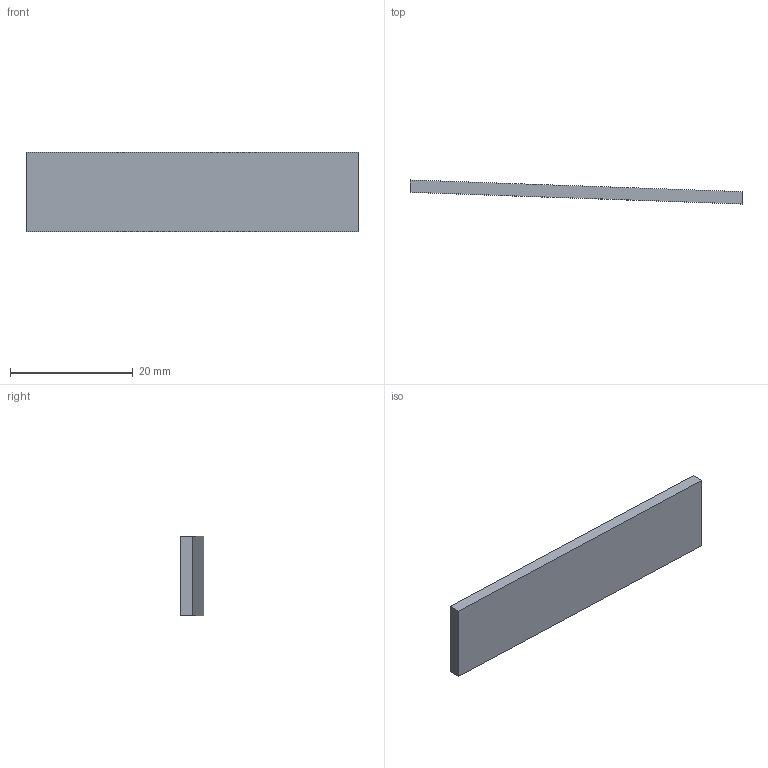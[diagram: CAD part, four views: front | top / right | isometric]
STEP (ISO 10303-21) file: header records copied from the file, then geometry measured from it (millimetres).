
FILE_DESCRIPTION(('Open CASCADE Model'),'2;1');
FILE_NAME('Open CASCADE Shape Model','2026-10-16T00:29:53',('Author'),( 'Open CASCADE'),'Open CASCADE STEP processor 7.9','Open CASCADE 7.9' ,'Unknown');
FILE_SCHEMA(('AUTOMOTIVE_DESIGN { 1 0 10303 214 1 1 1 1 }'));
Length unit declared in the file: millimetre
Products named in the file (1): Open CASCADE STEP translator 7.9 16
Bounding box: 54 x 3.9 x 13 mm (x, y, z)
Volume: 1404 mm3; surface area: 1672.9 mm2
Topology: 1 solids, 1 shells, 6 faces, 12 edges, 8 vertices
Faces by surface type: plane 6
Entity records: 322 total; most frequent: CARTESIAN_POINT 51, DIRECTION 50, LINE 36, VECTOR 36, ORIENTED_EDGE 24, PCURVE 24, DEFINITIONAL_REPRESENTATION 24, EDGE_CURVE 12
